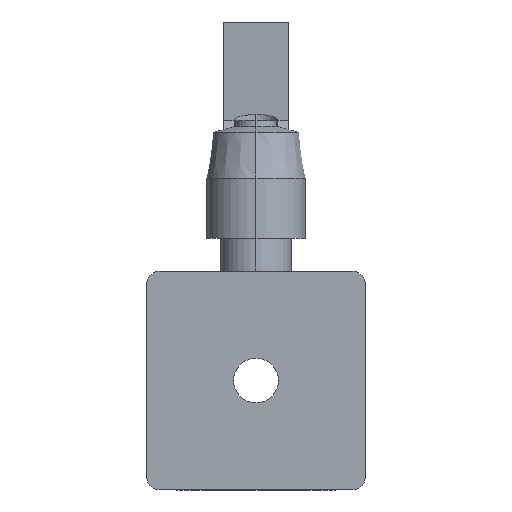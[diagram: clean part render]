
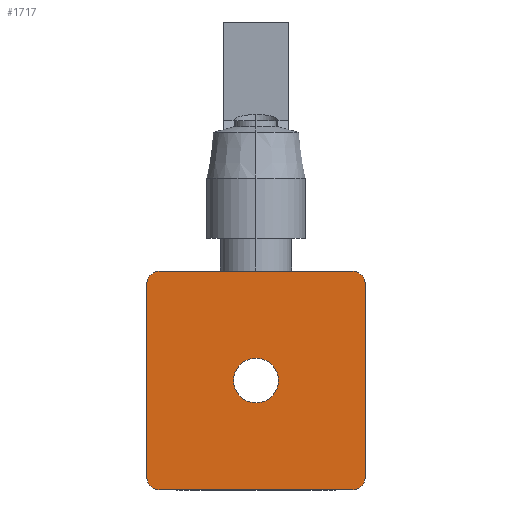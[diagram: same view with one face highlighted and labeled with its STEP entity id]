
A CAD part, left-side view. The second image highlights one B-rep face of the part: STEP entity #1717.
In plain terms, the highlighted planar face has unit normal (-1, 0, 0).
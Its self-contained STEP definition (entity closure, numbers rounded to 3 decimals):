
#20 = VERTEX_POINT ( 'NONE', #1369 ) ;
#42 = CIRCLE ( 'NONE', #810, 2.5 ) ;
#49 = EDGE_LOOP ( 'NONE', ( #1677, #1811 ) ) ;
#54 = CARTESIAN_POINT ( 'NONE',  ( 140.537, 154.93, 110.92 ) ) ;
#63 = EDGE_LOOP ( 'NONE', ( #2087, #1651, #1023, #577, #2092, #226, #677, #410 ) ) ;
#81 = DIRECTION ( 'NONE',  ( -1., 0., 0. ) ) ;
#88 = DIRECTION ( 'NONE',  ( 0., 0., 1. ) ) ;
#168 = AXIS2_PLACEMENT_3D ( 'NONE', #1121, #493, #2616 ) ;
#180 = EDGE_CURVE ( 'NONE', #20, #368, #2051, .T. ) ;
#226 = ORIENTED_EDGE ( 'NONE', *, *, #632, .T. ) ;
#231 = DIRECTION ( 'NONE',  ( 1., 0., 0. ) ) ;
#248 = FACE_BOUND ( 'NONE', #49, .T. ) ;
#300 = CARTESIAN_POINT ( 'NONE',  ( 140.537, 137.43, 97.52 ) ) ;
#368 = VERTEX_POINT ( 'NONE', #547 ) ;
#369 = AXIS2_PLACEMENT_3D ( 'NONE', #2724, #746, #1419 ) ;
#371 = EDGE_CURVE ( 'NONE', #368, #689, #2703, .T. ) ;
#390 = CIRCLE ( 'NONE', #369, 4.1 ) ;
#394 = CARTESIAN_POINT ( 'NONE',  ( 140.537, 119.93, 73.42 ) ) ;
#400 = DIRECTION ( 'NONE',  ( 0., 0., -1. ) ) ;
#410 = ORIENTED_EDGE ( 'NONE', *, *, #2467, .T. ) ;
#435 = EDGE_CURVE ( 'NONE', #1670, #885, #2344, .T. ) ;
#436 = CARTESIAN_POINT ( 'NONE',  ( 140.537, 117.43, 113.42 ) ) ;
#450 = DIRECTION ( 'NONE',  ( 0., 0., -1. ) ) ;
#452 = DIRECTION ( 'NONE',  ( -1., 0., 0. ) ) ;
#479 = DIRECTION ( 'NONE',  ( 0., 0., -1. ) ) ;
#484 = CARTESIAN_POINT ( 'NONE',  ( 140.537, 117.43, 73.42 ) ) ;
#493 = DIRECTION ( 'NONE',  ( -1., 0., 0. ) ) ;
#547 = CARTESIAN_POINT ( 'NONE',  ( 140.537, 117.43, 110.92 ) ) ;
#577 = ORIENTED_EDGE ( 'NONE', *, *, #714, .T. ) ;
#580 = VERTEX_POINT ( 'NONE', #1078 ) ;
#600 = DIRECTION ( 'NONE',  ( -1., 0., 0. ) ) ;
#602 = AXIS2_PLACEMENT_3D ( 'NONE', #1091, #452, #479 ) ;
#632 = EDGE_CURVE ( 'NONE', #885, #2565, #1095, .T. ) ;
#645 = PLANE ( 'NONE',  #2775 ) ;
#677 = ORIENTED_EDGE ( 'NONE', *, *, #1499, .T. ) ;
#689 = VERTEX_POINT ( 'NONE', #1527 ) ;
#714 = EDGE_CURVE ( 'NONE', #792, #1670, #42, .T. ) ;
#746 = DIRECTION ( 'NONE',  ( -1., 0., 0. ) ) ;
#792 = VERTEX_POINT ( 'NONE', #2460 ) ;
#810 = AXIS2_PLACEMENT_3D ( 'NONE', #54, #81, #1325 ) ;
#885 = VERTEX_POINT ( 'NONE', #2436 ) ;
#899 = VECTOR ( 'NONE', #88, 1000. ) ;
#1003 = AXIS2_PLACEMENT_3D ( 'NONE', #1465, #600, #400 ) ;
#1009 = EDGE_CURVE ( 'NONE', #580, #1339, #390, .T. ) ;
#1023 = ORIENTED_EDGE ( 'NONE', *, *, #1772, .T. ) ;
#1078 = CARTESIAN_POINT ( 'NONE',  ( 140.537, 137.43, 89.32 ) ) ;
#1091 = CARTESIAN_POINT ( 'NONE',  ( 140.537, 154.93, 75.92 ) ) ;
#1095 = CIRCLE ( 'NONE', #602, 2.5 ) ;
#1121 = CARTESIAN_POINT ( 'NONE',  ( 140.537, 137.43, 93.42 ) ) ;
#1276 = CARTESIAN_POINT ( 'NONE',  ( 140.537, 137.43, 93.42 ) ) ;
#1325 = DIRECTION ( 'NONE',  ( 0., 0., -1. ) ) ;
#1330 = CARTESIAN_POINT ( 'NONE',  ( 140.537, 117.43, 73.42 ) ) ;
#1339 = VERTEX_POINT ( 'NONE', #300 ) ;
#1369 = CARTESIAN_POINT ( 'NONE',  ( 140.537, 117.43, 75.92 ) ) ;
#1419 = DIRECTION ( 'NONE',  ( 0., 0., -1. ) ) ;
#1465 = CARTESIAN_POINT ( 'NONE',  ( 140.537, 119.93, 75.92 ) ) ;
#1477 = CARTESIAN_POINT ( 'NONE',  ( 140.537, 154.93, 73.42 ) ) ;
#1499 = EDGE_CURVE ( 'NONE', #2565, #2332, #2065, .T. ) ;
#1520 = DIRECTION ( 'NONE',  ( 0., -1., 0. ) ) ;
#1527 = CARTESIAN_POINT ( 'NONE',  ( 140.537, 119.93, 113.42 ) ) ;
#1528 = EDGE_CURVE ( 'NONE', #1339, #580, #2721, .T. ) ;
#1573 = AXIS2_PLACEMENT_3D ( 'NONE', #2280, #1841, #2507 ) ;
#1643 = DIRECTION ( 'NONE',  ( 0., 0., -1. ) ) ;
#1651 = ORIENTED_EDGE ( 'NONE', *, *, #371, .T. ) ;
#1670 = VERTEX_POINT ( 'NONE', #2478 ) ;
#1677 = ORIENTED_EDGE ( 'NONE', *, *, #1009, .F. ) ;
#1681 = VECTOR ( 'NONE', #1520, 1000. ) ;
#1717 = ADVANCED_FACE ( 'NONE', ( #248, #1881 ), #645, .F. ) ;
#1759 = VECTOR ( 'NONE', #1643, 1000. ) ;
#1772 = EDGE_CURVE ( 'NONE', #689, #792, #2725, .T. ) ;
#1786 = CIRCLE ( 'NONE', #1003, 2.5 ) ;
#1811 = ORIENTED_EDGE ( 'NONE', *, *, #1528, .F. ) ;
#1841 = DIRECTION ( 'NONE',  ( -1., 0., 0. ) ) ;
#1881 = FACE_OUTER_BOUND ( 'NONE', #63, .T. ) ;
#2051 = LINE ( 'NONE', #484, #899 ) ;
#2065 = LINE ( 'NONE', #1330, #1681 ) ;
#2087 = ORIENTED_EDGE ( 'NONE', *, *, #180, .T. ) ;
#2092 = ORIENTED_EDGE ( 'NONE', *, *, #435, .T. ) ;
#2102 = VECTOR ( 'NONE', #2144, 1000. ) ;
#2144 = DIRECTION ( 'NONE',  ( 0., 1., 0. ) ) ;
#2280 = CARTESIAN_POINT ( 'NONE',  ( 140.537, 119.93, 110.92 ) ) ;
#2332 = VERTEX_POINT ( 'NONE', #394 ) ;
#2344 = LINE ( 'NONE', #2743, #1759 ) ;
#2436 = CARTESIAN_POINT ( 'NONE',  ( 140.537, 157.43, 75.92 ) ) ;
#2460 = CARTESIAN_POINT ( 'NONE',  ( 140.537, 154.93, 113.42 ) ) ;
#2467 = EDGE_CURVE ( 'NONE', #2332, #20, #1786, .T. ) ;
#2478 = CARTESIAN_POINT ( 'NONE',  ( 140.537, 157.43, 110.92 ) ) ;
#2507 = DIRECTION ( 'NONE',  ( 0., 0., -1. ) ) ;
#2565 = VERTEX_POINT ( 'NONE', #1477 ) ;
#2616 = DIRECTION ( 'NONE',  ( 0., 0., -1. ) ) ;
#2703 = CIRCLE ( 'NONE', #1573, 2.5 ) ;
#2721 = CIRCLE ( 'NONE', #168, 4.1 ) ;
#2724 = CARTESIAN_POINT ( 'NONE',  ( 140.537, 137.43, 93.42 ) ) ;
#2725 = LINE ( 'NONE', #436, #2102 ) ;
#2743 = CARTESIAN_POINT ( 'NONE',  ( 140.537, 157.43, 73.42 ) ) ;
#2775 = AXIS2_PLACEMENT_3D ( 'NONE', #1276, #231, #450 ) ;
